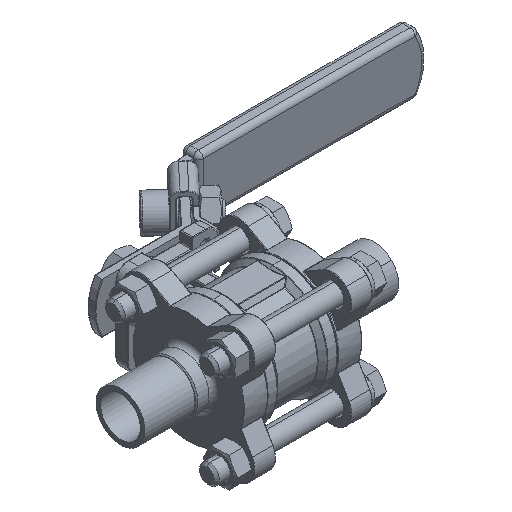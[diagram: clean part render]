
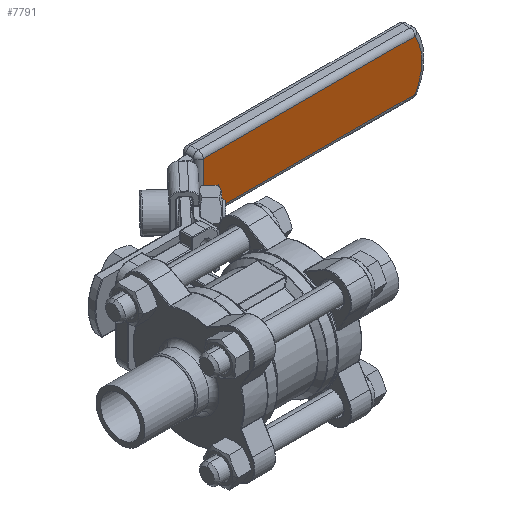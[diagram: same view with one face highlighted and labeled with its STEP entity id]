
A CAD part, isometric view. The second image highlights one B-rep face of the part: STEP entity #7791.
In plain terms, the highlighted planar face has unit normal (0, -1, 0) as drawn and (0, 0, 1) by its records, which use the part's own axes.
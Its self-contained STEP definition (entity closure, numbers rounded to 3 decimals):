
#2452 = DIRECTION ( 'NONE',  ( 1., 0., 0. ) ) ;
#2720 = EDGE_LOOP ( 'NONE', ( #15878, #4695, #17639, #14825, #6548 ) ) ;
#2841 = VERTEX_POINT ( 'NONE', #24658 ) ;
#3623 = AXIS2_PLACEMENT_3D ( 'NONE', #22582, #24743, #26696 ) ;
#4695 = ORIENTED_EDGE ( 'NONE', *, *, #17179, .T. ) ;
#5025 = VECTOR ( 'NONE', #6712, 1000. ) ;
#6548 = ORIENTED_EDGE ( 'NONE', *, *, #24434, .T. ) ;
#6712 = DIRECTION ( 'NONE',  ( -1., 0., 0. ) ) ;
#6937 = CARTESIAN_POINT ( 'NONE',  ( 0., -10., 3.5 ) ) ;
#7791 = ADVANCED_FACE ( 'NONE', ( #13885 ), #19840, .T. ) ;
#8800 = VERTEX_POINT ( 'NONE', #13343 ) ;
#9069 = DIRECTION ( 'NONE',  ( 0., 0., 1. ) ) ;
#10338 = LINE ( 'NONE', #21422, #10989 ) ;
#10597 = EDGE_CURVE ( 'NONE', #14157, #8800, #18745, .T. ) ;
#10766 = VERTEX_POINT ( 'NONE', #26334 ) ;
#10989 = VECTOR ( 'NONE', #17043, 1000. ) ;
#11488 = EDGE_CURVE ( 'NONE', #10766, #2841, #11702, .T. ) ;
#11702 = LINE ( 'NONE', #6937, #16028 ) ;
#11885 = AXIS2_PLACEMENT_3D ( 'NONE', #26180, #21880, #13294 ) ;
#12079 = VERTEX_POINT ( 'NONE', #12496 ) ;
#12496 = CARTESIAN_POINT ( 'NONE',  ( 89., 0., 3.5 ) ) ;
#13294 = DIRECTION ( 'NONE',  ( 1., 0., 0. ) ) ;
#13343 = CARTESIAN_POINT ( 'NONE',  ( 2., 10., 3.5 ) ) ;
#13408 = CIRCLE ( 'NONE', #15685, 20. ) ;
#13885 = FACE_OUTER_BOUND ( 'NONE', #2720, .T. ) ;
#14157 = VERTEX_POINT ( 'NONE', #21001 ) ;
#14825 = ORIENTED_EDGE ( 'NONE', *, *, #21670, .T. ) ;
#15212 = CIRCLE ( 'NONE', #3623, 20. ) ;
#15435 = DIRECTION ( 'NONE',  ( 1., 0., 0. ) ) ;
#15685 = AXIS2_PLACEMENT_3D ( 'NONE', #19548, #9069, #15435 ) ;
#15878 = ORIENTED_EDGE ( 'NONE', *, *, #10597, .T. ) ;
#16028 = VECTOR ( 'NONE', #2452, 1000. ) ;
#17043 = DIRECTION ( 'NONE',  ( 0., -1., 0. ) ) ;
#17179 = EDGE_CURVE ( 'NONE', #8800, #10766, #10338, .T. ) ;
#17639 = ORIENTED_EDGE ( 'NONE', *, *, #11488, .T. ) ;
#18745 = LINE ( 'NONE', #25697, #5025 ) ;
#19548 = CARTESIAN_POINT ( 'NONE',  ( 69., 0., 3.5 ) ) ;
#19840 = PLANE ( 'NONE',  #11885 ) ;
#21001 = CARTESIAN_POINT ( 'NONE',  ( 86.321, 10., 3.5 ) ) ;
#21422 = CARTESIAN_POINT ( 'NONE',  ( 2., 0., 3.5 ) ) ;
#21670 = EDGE_CURVE ( 'NONE', #2841, #12079, #15212, .T. ) ;
#21880 = DIRECTION ( 'NONE',  ( 0., 0., 1. ) ) ;
#22582 = CARTESIAN_POINT ( 'NONE',  ( 69., 0., 3.5 ) ) ;
#24434 = EDGE_CURVE ( 'NONE', #12079, #14157, #13408, .T. ) ;
#24658 = CARTESIAN_POINT ( 'NONE',  ( 86.321, -10., 3.5 ) ) ;
#24743 = DIRECTION ( 'NONE',  ( 0., 0., 1. ) ) ;
#25697 = CARTESIAN_POINT ( 'NONE',  ( 0., 10., 3.5 ) ) ;
#26180 = CARTESIAN_POINT ( 'NONE',  ( 0., 0., 3.5 ) ) ;
#26334 = CARTESIAN_POINT ( 'NONE',  ( 2., -10., 3.5 ) ) ;
#26696 = DIRECTION ( 'NONE',  ( 1., 0., 0. ) ) ;
